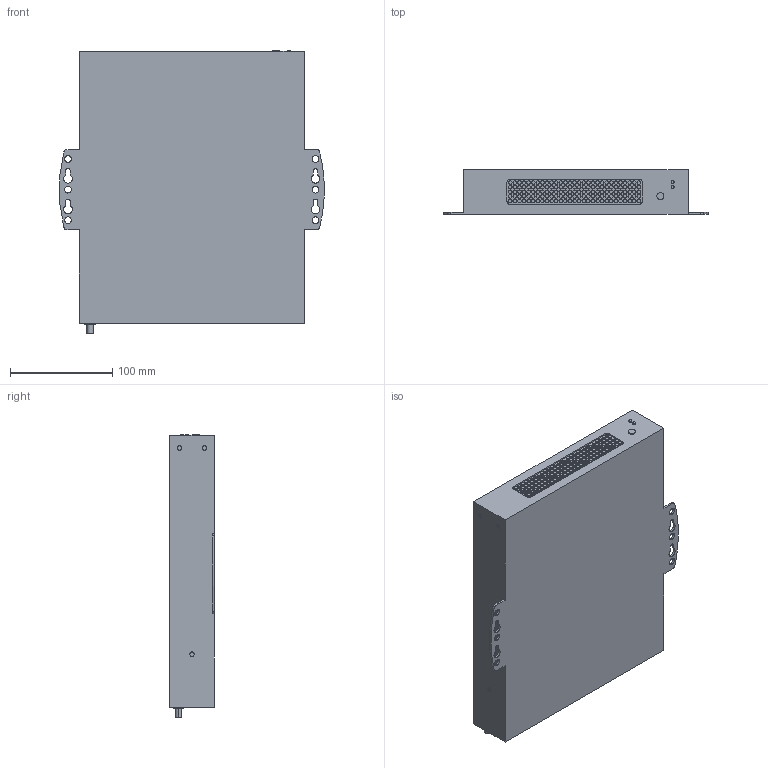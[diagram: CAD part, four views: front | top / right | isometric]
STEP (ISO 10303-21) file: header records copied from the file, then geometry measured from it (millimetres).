
FILE_DESCRIPTION (( 'STEP AP214' ), '1' );
FILE_NAME ('FG-901638-3D-A (SURFACE MOUNT).STEP', '2025-12-18T23:50:08', ( '' ), ( '' ), 'SwSTEP 2.0', 'SolidWorks 2023', '' );
FILE_SCHEMA (( 'AUTOMOTIVE_DESIGN' ));
Length unit declared in the file: millimetre
Products named in the file (1): FG-901638-3D-A (SURFACE MOUNT)
Bounding box: 259.42 x 43.6 x 277.84 mm (x, y, z)
Volume: 2555092.9 mm3; surface area: 169016.7 mm2
Topology: 1 solids, 1 shells, 1003 faces, 2310 edges, 1540 vertices
Faces by surface type: plane 649, cylinder 354
Entity records: 28515 total; most frequent: DIRECTION 5026, CARTESIAN_POINT 4854, ORIENTED_EDGE 4620, EDGE_CURVE 2310, AXIS2_PLACEMENT_3D 1712, VECTOR 1602, LINE 1602, VERTEX_POINT 1540
